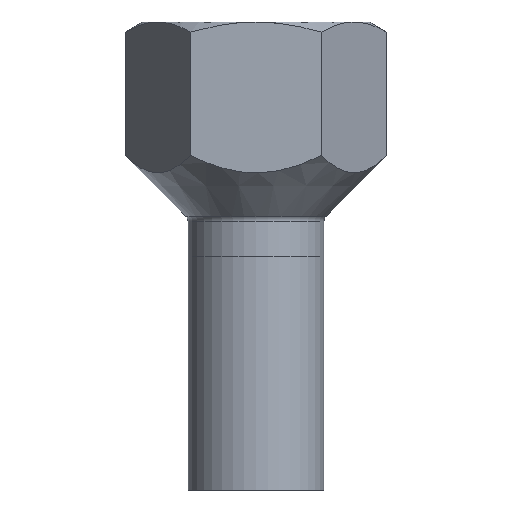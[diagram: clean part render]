
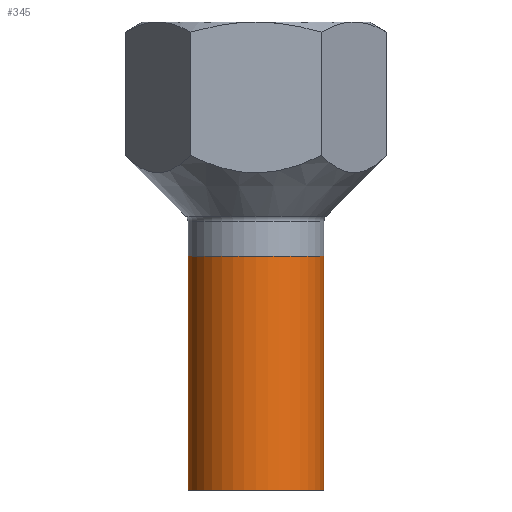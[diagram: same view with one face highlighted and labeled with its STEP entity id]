
A CAD part, front view. The second image highlights one B-rep face of the part: STEP entity #345.
In plain terms, the highlighted cylindrical face has radius 9 mm (diameter 18 mm), a partial arc.
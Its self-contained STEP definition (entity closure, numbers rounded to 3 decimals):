
#22 = CARTESIAN_POINT ( 'NONE',  ( 9., 0., 0. ) ) ;
#29 = ORIENTED_EDGE ( 'NONE', *, *, #222, .T. ) ;
#222 = EDGE_CURVE ( 'NONE', #409, #1261, #1347, .T. ) ;
#267 = ORIENTED_EDGE ( 'NONE', *, *, #970, .T. ) ;
#300 = DIRECTION ( 'NONE',  ( 0., 0., -1. ) ) ;
#345 = ADVANCED_FACE ( 'NONE', ( #744 ), #644, .T. ) ;
#409 = VERTEX_POINT ( 'NONE', #429 ) ;
#429 = CARTESIAN_POINT ( 'NONE',  ( -9., 0., 31. ) ) ;
#463 = CARTESIAN_POINT ( 'NONE',  ( 0., 0., 31. ) ) ;
#470 = DIRECTION ( 'NONE',  ( 0., 0., 1. ) ) ;
#516 = CARTESIAN_POINT ( 'NONE',  ( -9., 0., 31. ) ) ;
#527 = VERTEX_POINT ( 'NONE', #22 ) ;
#573 = DIRECTION ( 'NONE',  ( 0., 0., 1. ) ) ;
#635 = EDGE_CURVE ( 'NONE', #1332, #527, #932, .T. ) ;
#640 = CARTESIAN_POINT ( 'NONE',  ( 0., 0., 31. ) ) ;
#644 = CYLINDRICAL_SURFACE ( 'NONE', #1241, 9. ) ;
#646 = DIRECTION ( 'NONE',  ( -1., 0., 0. ) ) ;
#647 = AXIS2_PLACEMENT_3D ( 'NONE', #463, #573, #668 ) ;
#668 = DIRECTION ( 'NONE',  ( 1., 0., 0. ) ) ;
#695 = DIRECTION ( 'NONE',  ( 1., 0., 0. ) ) ;
#744 = FACE_OUTER_BOUND ( 'NONE', #1158, .T. ) ;
#781 = CIRCLE ( 'NONE', #647, 9. ) ;
#782 = VECTOR ( 'NONE', #1141, 1000. ) ;
#816 = CARTESIAN_POINT ( 'NONE',  ( -9., 0., 0. ) ) ;
#824 = EDGE_CURVE ( 'NONE', #409, #1332, #781, .T. ) ;
#870 = ORIENTED_EDGE ( 'NONE', *, *, #824, .F. ) ;
#915 = AXIS2_PLACEMENT_3D ( 'NONE', #1101, #470, #695 ) ;
#932 = LINE ( 'NONE', #1322, #1080 ) ;
#941 = ORIENTED_EDGE ( 'NONE', *, *, #635, .F. ) ;
#951 = CARTESIAN_POINT ( 'NONE',  ( 9., 0., 31. ) ) ;
#970 = EDGE_CURVE ( 'NONE', #1261, #527, #1297, .T. ) ;
#1080 = VECTOR ( 'NONE', #1214, 1000. ) ;
#1101 = CARTESIAN_POINT ( 'NONE',  ( 0., 0., 0. ) ) ;
#1141 = DIRECTION ( 'NONE',  ( 0., 0., -1. ) ) ;
#1158 = EDGE_LOOP ( 'NONE', ( #941, #870, #29, #267 ) ) ;
#1214 = DIRECTION ( 'NONE',  ( 0., 0., -1. ) ) ;
#1241 = AXIS2_PLACEMENT_3D ( 'NONE', #640, #300, #646 ) ;
#1261 = VERTEX_POINT ( 'NONE', #816 ) ;
#1297 = CIRCLE ( 'NONE', #915, 9. ) ;
#1322 = CARTESIAN_POINT ( 'NONE',  ( 9., 0., 31. ) ) ;
#1332 = VERTEX_POINT ( 'NONE', #951 ) ;
#1347 = LINE ( 'NONE', #516, #782 ) ;
